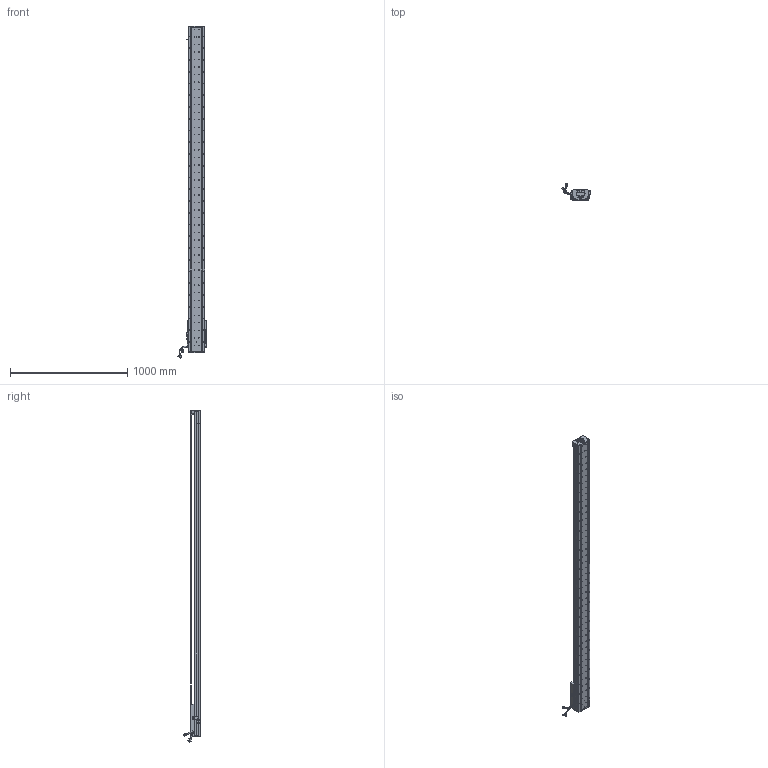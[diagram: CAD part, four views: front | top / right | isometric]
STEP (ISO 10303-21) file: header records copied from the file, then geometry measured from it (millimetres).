
FILE_DESCRIPTION (( 'STEP AP203' ), '1' );
FILE_NAME ('Z3-RY140D-1-L500-B-K.SLDASM_2450.step', '2021-05-17T08:05:10', ( '盈信电脑' ), ( '东莞市道滘镇水果街19号' ), 'SwSTEP 2.0', 'SolidWorks 2016', '' );
FILE_SCHEMA (( 'CONFIG_CONTROL_DESIGN' ));
Length unit declared in the file: millimetre
Products named in the file (36): HARNESS-Part-2; Z-RY140詩湍奻揤裔; SCREW-M1.6-2; Z3-RY140D-1-L500-B-K.SLDASM_2450; SEAL-Part-1; Z3-RY140圉猾敕臏賑輸(21遴); PBU_SHEET; COVER-Part-1; HARNESS; SHIELDPLATE; 覜茼ん672; 140蚥薯蝶輸; Z-RY140感应器672光电感应片; Z3-RY140-L500詩湍100mm遵_2450; PSLH080_PSLF2; Z-140詩湍傷裔啣; LABEL; 140-Z-臏賑輸盄裔(21遴); COVER; Z3-RY140-L500直线电机模组底座_2450; SCALE-Part-1; SCREW-M1.6-1; 榋妏寠巭燃_暯_M2_2; SCALE; SCREW-M1.7-1; LABEL-Part-1; SCREW-M1.6; SEAL; SCREW-M1.6-3; 080黍杅芛假蚾釱21遴; 140雄赽晤鎢ん堤盄; SCREW-M1.7; SCALE-Part-2; Z-RY140詩湍狟揤裔; HOLDER0; HARNESS-Part-1
Assembly tree (41 placements, depth 4):
  Z3-RY140D-1-L500-B-K.SLDASM_2450
    Z3-RY140-L500直线电机模组底座_2450
    Z-RY140感应器672光电感应片
    Z3-RY140圉猾敕臏賑輸(21遴)
    覜茼ん672  x3
    Z3-RY140-L500詩湍100mm遵_2450
    PSLH080_PSLF2
      SCALE
        SCALE-Part-1
        SCALE-Part-2
      HARNESS
        HARNESS-Part-1
        HARNESS-Part-2
      LABEL
        LABEL-Part-1
      COVER
        COVER-Part-1
      SEAL
        SEAL-Part-1
      榋妏寠巭燃_暯_M2_2
      SHIELDPLATE
      SCREW-M1.7
      SCREW-M1.7-1
      PBU_SHEET
      SCREW-M1.6
      SCREW-M1.6-1
      SCREW-M1.6-2
      SCREW-M1.6-3
      HOLDER0
    080黍杅芛假蚾釱21遴
    140-Z-臏賑輸盄裔(21遴)
    Z-140詩湍傷裔啣  x2
    Z-RY140詩湍狟揤裔  x2
    Z-RY140詩湍奻揤裔  x2
    140蚥薯蝶輸  x2
    140雄赽晤鎢ん堤盄
Bounding box: 239.79 x 143.88 x 2825.87 mm (x, y, z)
Volume: 9003184.7 mm3; surface area: 2345630.4 mm2
Topology: 36 solids, 36 shells, 4210 faces, 11470 edges, 7263 vertices
Faces by surface type: cylinder 2292, plane 1382, cone 414, torus 69, bspline 53
Entity records: 134050 total; most frequent: CARTESIAN_POINT 38015, ORIENTED_EDGE 19836, DIRECTION 18326, EDGE_CURVE 9918, AXIS2_PLACEMENT_3D 6822, VERTEX_POINT 6431, LINE 4682, VECTOR 4682
